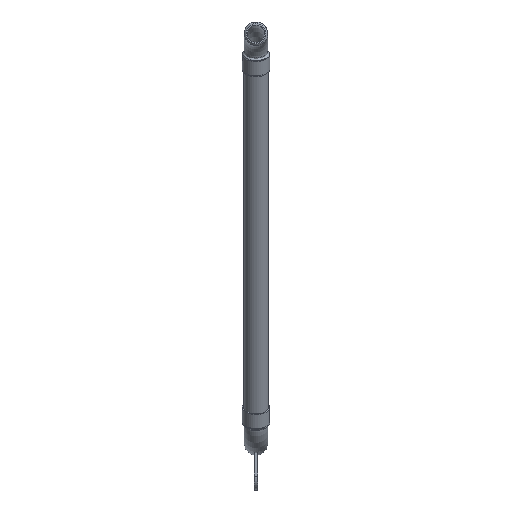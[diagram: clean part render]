
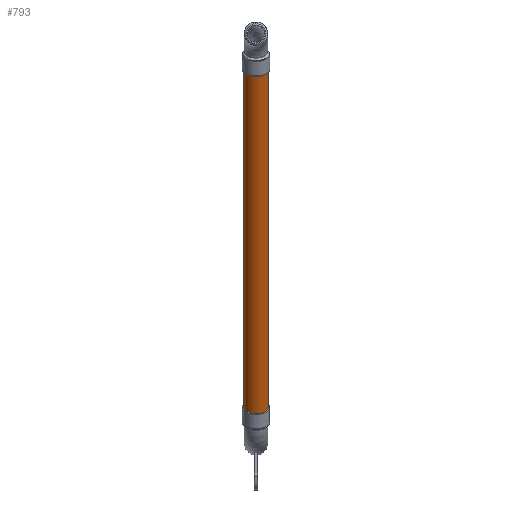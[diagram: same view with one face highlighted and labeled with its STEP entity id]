
A CAD part, front view. The second image highlights one B-rep face of the part: STEP entity #793.
In plain terms, the highlighted cylindrical face has radius 11.354 mm (diameter 22.708 mm), a full revolution.
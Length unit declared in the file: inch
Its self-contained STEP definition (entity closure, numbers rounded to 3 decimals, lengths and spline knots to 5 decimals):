
#73=CYLINDRICAL_SURFACE('',#917,0.447);
#152=FACE_BOUND('',#323,.T.);
#213=FACE_OUTER_BOUND('',#322,.T.);
#322=EDGE_LOOP('',(#648));
#323=EDGE_LOOP('',(#649));
#390=CIRCLE('',#918,0.447);
#391=CIRCLE('',#919,0.447);
#454=VERTEX_POINT('',#1354);
#455=VERTEX_POINT('',#1356);
#522=EDGE_CURVE('',#454,#454,#390,.T.);
#523=EDGE_CURVE('',#455,#455,#391,.T.);
#648=ORIENTED_EDGE('',*,*,#522,.T.);
#649=ORIENTED_EDGE('',*,*,#523,.F.);
#793=ADVANCED_FACE('',(#213,#152),#73,.T.);
#917=AXIS2_PLACEMENT_3D('',#1353,#1150,#1151);
#918=AXIS2_PLACEMENT_3D('',#1355,#1152,#1153);
#919=AXIS2_PLACEMENT_3D('',#1357,#1154,#1155);
#1150=DIRECTION('center_axis',(0.,-0.5,
0.866));
#1151=DIRECTION('ref_axis',(0.992,-0.107,-0.062));
#1152=DIRECTION('center_axis',(0.,0.5,
-0.866));
#1153=DIRECTION('ref_axis',(0.992,-0.107,-0.062));
#1154=DIRECTION('center_axis',(0.,0.5,
-0.866));
#1155=DIRECTION('ref_axis',(0.992,-0.107,-0.062));
#1353=CARTESIAN_POINT('Origin',(0.,-1.29904,
-13.955));
#1354=CARTESIAN_POINT('',(-0.44357,-8.87619,-0.72049));
#1355=CARTESIAN_POINT('Origin',(0.,-8.92404,
-0.74811));
#1356=CARTESIAN_POINT('',(-0.44357,-1.25119,-13.92737));
#1357=CARTESIAN_POINT('Origin',(0.,-1.29904,
-13.955));
